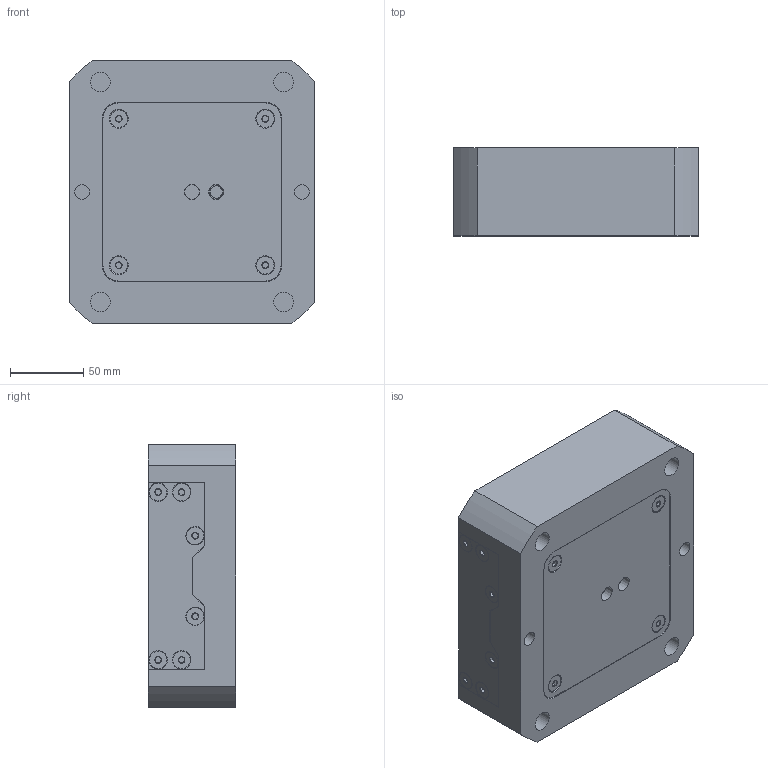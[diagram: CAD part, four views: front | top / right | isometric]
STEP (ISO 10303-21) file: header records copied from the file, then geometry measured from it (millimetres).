
FILE_DESCRIPTION (( 'STEP AP214' ), '1' );
FILE_NAME ('RL96E-67_WEBSITE.step', '2025-08-12T15:00:35', ( '' ), ( '' ), 'SwSTEP 2.0', 'SolidWorks 2024', '' );
FILE_SCHEMA (( 'AUTOMOTIVE_DESIGN' ));
Length unit declared in the file: inch
Products named in the file (13): 014.OR_WEBSITE; HW27X20.DB.A_WEBSITE_POST MILL; RL96E-67_WEBSITE; RL96P-6_WEBSITE; RL96P-3A_WEBSITE; 1X19.OR (9262K617)_WEBSITE_9262K617; 202.OR_WEBSITE; HW.CAP.M12_WEBSITE; M6X20.FHCS_WEBSITE; RL96E-167S_WEBSITE_LASER; 010.OR.V_WEBSITE_9452K18; 011.OR.V_WEBSITE_9452K19; RL96P-8_WEBSITE
Assembly tree (46 placements, depth 2):
  RL96E-67_WEBSITE
    RL96E-167S_WEBSITE_LASER
    HW27X20.DB.A_WEBSITE_POST MILL  x4
    RL96P-8_WEBSITE  x4
    RL96P-3A_WEBSITE
    RL96P-6_WEBSITE  x2
    014.OR_WEBSITE
    202.OR_WEBSITE  x4
    011.OR.V_WEBSITE_9452K19  x4
    010.OR.V_WEBSITE_9452K18
    M6X20.FHCS_WEBSITE  x16
    HW.CAP.M12_WEBSITE  x4
    1X19.OR (9262K617)_WEBSITE_9262K617  x4
Bounding box: 167 x 60 x 180 mm (x, y, z)
Volume: 1360707.9 mm3; surface area: 242815.4 mm2
Topology: 46 solids, 46 shells, 829 faces, 1828 edges, 1124 vertices
Faces by surface type: plane 337, cylinder 287, cone 187, torus 17, bspline 1
Full cylindrical faces by diameter (mm): 1.191 x1, 1.2 x32, 1.575 x16, 3.175 x4, 4.801 x4, 5 x12, 6.09 x16, 6.299 x8, 6.375 x8, 6.6 x16, 8.433 x1, 9.347 x8, 9.525 x4, 10.046 x2, 10.922 x4, 11.303 x4, 11.938 x4, 12 x16, 12.573 x4, 12.763 x1, 13.492 x4, 19.101 x4, 19.304 x4, 20.015 x4, 20.036 x4, 20.638 x4, 20.777 x8, 21.031 x4, 24.13 x1, 26.977 x4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
Entity records: 12539 total; most frequent: CARTESIAN_POINT 2789, DIRECTION 2002, ORIENTED_EDGE 1504, AXIS2_PLACEMENT_3D 848, EDGE_CURVE 752, EDGE_LOOP 708, VERTEX_POINT 582, FACE_OUTER_BOUND 527
